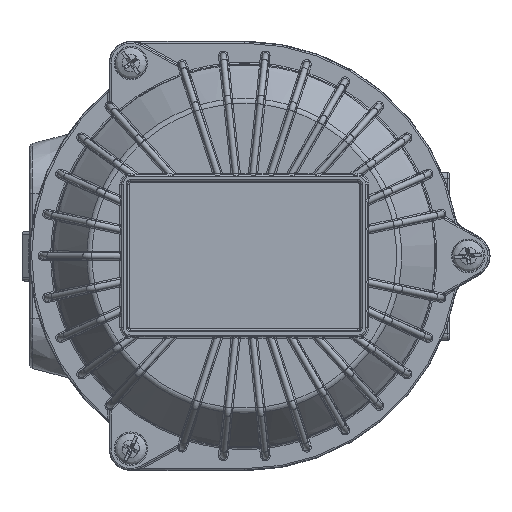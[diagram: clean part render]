
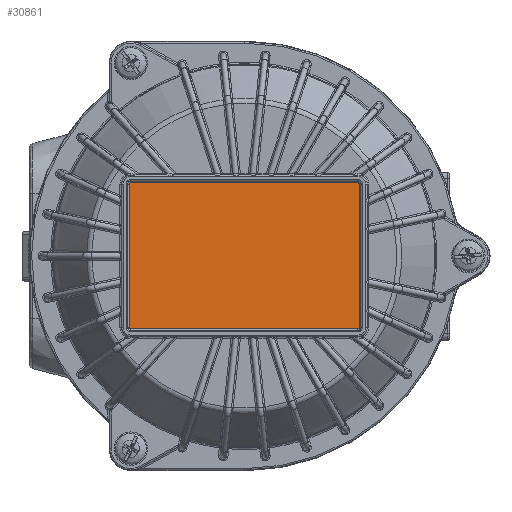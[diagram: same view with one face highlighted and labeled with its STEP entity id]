
A CAD part, top view. The second image highlights one B-rep face of the part: STEP entity #30861.
In plain terms, the highlighted planar face has unit normal (0, 0, 1).
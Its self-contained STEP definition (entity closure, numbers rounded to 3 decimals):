
#4719=PLANE('',#33406);
#5799=FACE_OUTER_BOUND('',#7804,.T.);
#7804=EDGE_LOOP('',(#22899,#22900,#22901,#22902,#22903,#22904,#22905,#22906));
#9856=LINE('',#50279,#11000);
#9857=LINE('',#50283,#11001);
#9858=LINE('',#50287,#11002);
#9859=LINE('',#50290,#11003);
#11000=VECTOR('',#38042,10.);
#11001=VECTOR('',#38045,10.);
#11002=VECTOR('',#38048,10.);
#11003=VECTOR('',#38051,10.);
#12244=CIRCLE('',#33407,0.5);
#12245=CIRCLE('',#33408,0.5);
#12246=CIRCLE('',#33409,0.5);
#12247=CIRCLE('',#33410,0.5);
#14666=VERTEX_POINT('',#50275);
#14667=VERTEX_POINT('',#50276);
#14668=VERTEX_POINT('',#50278);
#14669=VERTEX_POINT('',#50280);
#14670=VERTEX_POINT('',#50282);
#14671=VERTEX_POINT('',#50284);
#14672=VERTEX_POINT('',#50286);
#14673=VERTEX_POINT('',#50288);
#17703=EDGE_CURVE('',#14666,#14667,#12244,.T.);
#17704=EDGE_CURVE('',#14668,#14666,#9856,.T.);
#17705=EDGE_CURVE('',#14669,#14668,#12245,.T.);
#17706=EDGE_CURVE('',#14670,#14669,#9857,.T.);
#17707=EDGE_CURVE('',#14671,#14670,#12246,.T.);
#17708=EDGE_CURVE('',#14672,#14671,#9858,.T.);
#17709=EDGE_CURVE('',#14673,#14672,#12247,.T.);
#17710=EDGE_CURVE('',#14667,#14673,#9859,.T.);
#22899=ORIENTED_EDGE('',*,*,#17703,.F.);
#22900=ORIENTED_EDGE('',*,*,#17704,.F.);
#22901=ORIENTED_EDGE('',*,*,#17705,.F.);
#22902=ORIENTED_EDGE('',*,*,#17706,.F.);
#22903=ORIENTED_EDGE('',*,*,#17707,.F.);
#22904=ORIENTED_EDGE('',*,*,#17708,.F.);
#22905=ORIENTED_EDGE('',*,*,#17709,.F.);
#22906=ORIENTED_EDGE('',*,*,#17710,.F.);
#30861=ADVANCED_FACE('',(#5799),#4719,.T.);
#33406=AXIS2_PLACEMENT_3D('',#50274,#38038,#38039);
#33407=AXIS2_PLACEMENT_3D('',#50277,#38040,#38041);
#33408=AXIS2_PLACEMENT_3D('',#50281,#38043,#38044);
#33409=AXIS2_PLACEMENT_3D('',#50285,#38046,#38047);
#33410=AXIS2_PLACEMENT_3D('',#50289,#38049,#38050);
#38038=DIRECTION('center_axis',(0.,0.,
1.));
#38039=DIRECTION('ref_axis',(1.,0.,0.));
#38040=DIRECTION('center_axis',(0.,0.,
-1.));
#38041=DIRECTION('ref_axis',(0.707,0.707,0.));
#38042=DIRECTION('',(1.,0.,0.));
#38043=DIRECTION('center_axis',(0.,0.,
-1.));
#38044=DIRECTION('ref_axis',(-0.707,0.707,0.));
#38045=DIRECTION('',(0.,1.,0.));
#38046=DIRECTION('center_axis',(0.,0.,
-1.));
#38047=DIRECTION('ref_axis',(-0.707,-0.707,0.));
#38048=DIRECTION('',(-1.,0.,0.));
#38049=DIRECTION('center_axis',(0.,0.,
-1.));
#38050=DIRECTION('ref_axis',(0.707,-0.707,0.));
#38051=DIRECTION('',(0.,-1.,0.));
#50274=CARTESIAN_POINT('Origin',(0.,0.,
25.5));
#50275=CARTESIAN_POINT('',(36.5,23.5,25.5));
#50276=CARTESIAN_POINT('',(37.,23.,25.5));
#50277=CARTESIAN_POINT('Origin',(36.5,23.,25.5));
#50278=CARTESIAN_POINT('',(-36.5,23.5,25.5));
#50279=CARTESIAN_POINT('',(18.25,23.5,25.5));
#50280=CARTESIAN_POINT('',(-37.,23.,25.5));
#50281=CARTESIAN_POINT('Origin',(-36.5,23.,25.5));
#50282=CARTESIAN_POINT('',(-37.,-23.,25.5));
#50283=CARTESIAN_POINT('',(-37.,11.5,25.5));
#50284=CARTESIAN_POINT('',(-36.5,-23.5,25.5));
#50285=CARTESIAN_POINT('Origin',(-36.5,-23.,25.5));
#50286=CARTESIAN_POINT('',(36.5,-23.5,25.5));
#50287=CARTESIAN_POINT('',(-18.25,-23.5,25.5));
#50288=CARTESIAN_POINT('',(37.,-23.,25.5));
#50289=CARTESIAN_POINT('Origin',(36.5,-23.,25.5));
#50290=CARTESIAN_POINT('',(37.,-11.5,25.5));
